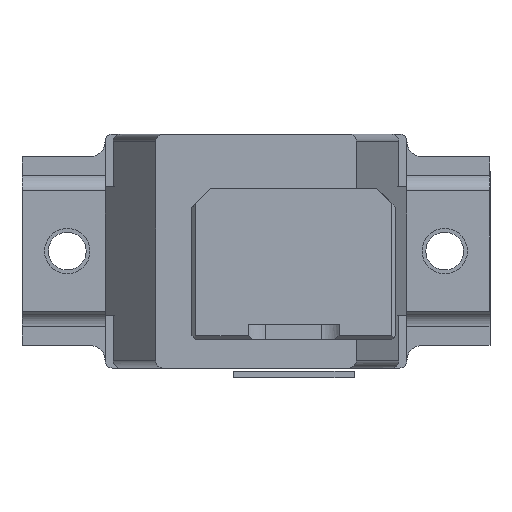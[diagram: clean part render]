
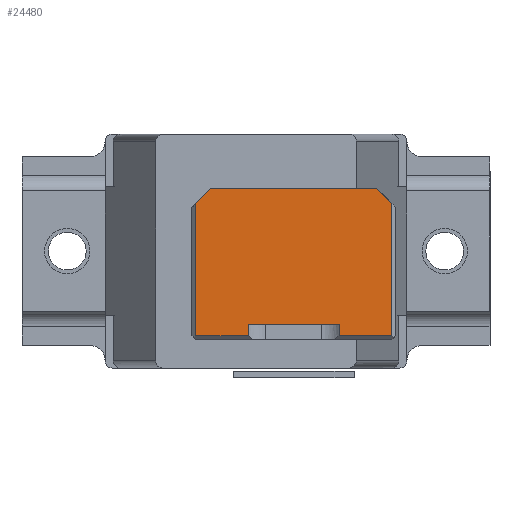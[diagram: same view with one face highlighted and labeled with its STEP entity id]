
A CAD part, left-side view. The second image highlights one B-rep face of the part: STEP entity #24480.
In plain terms, the highlighted planar face has unit normal (-1, 0, 0).
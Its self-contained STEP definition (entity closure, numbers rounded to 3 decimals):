
#61 = EDGE_CURVE ( 'NONE', #2736, #17254, #11929, .T. ) ;
#237 = ORIENTED_EDGE ( 'NONE', *, *, #7673, .T. ) ;
#610 = CARTESIAN_POINT ( 'NONE',  ( 0., -13.25, 9. ) ) ;
#902 = ORIENTED_EDGE ( 'NONE', *, *, #9950, .T. ) ;
#949 = CARTESIAN_POINT ( 'NONE',  ( 0., -12.25, 10. ) ) ;
#1392 = VERTEX_POINT ( 'NONE', #8707 ) ;
#1511 = LINE ( 'NONE', #20238, #7003 ) ;
#1787 = VECTOR ( 'NONE', #18299, 1000. ) ;
#2589 = DIRECTION ( 'NONE',  ( 0., 0., -1. ) ) ;
#2687 = DIRECTION ( 'NONE',  ( 0., 0., -1. ) ) ;
#2736 = VERTEX_POINT ( 'NONE', #7228 ) ;
#2973 = VECTOR ( 'NONE', #19530, 1000. ) ;
#3695 = CARTESIAN_POINT ( 'NONE',  ( 0., -0.25, 0.25 ) ) ;
#4094 = VECTOR ( 'NONE', #9648, 1000. ) ;
#5079 = DIRECTION ( 'NONE',  ( 0., -1., 0. ) ) ;
#5098 = LINE ( 'NONE', #13329, #2973 ) ;
#5399 = VECTOR ( 'NONE', #2687, 1000. ) ;
#5479 = VERTEX_POINT ( 'NONE', #8473 ) ;
#5630 = ORIENTED_EDGE ( 'NONE', *, *, #22681, .T. ) ;
#6900 = LINE ( 'NONE', #21361, #14252 ) ;
#7003 = VECTOR ( 'NONE', #12140, 1000. ) ;
#7122 = DIRECTION ( 'NONE',  ( 0., -1., 0. ) ) ;
#7228 = CARTESIAN_POINT ( 'NONE',  ( 0., -3.75, 1. ) ) ;
#7466 = VERTEX_POINT ( 'NONE', #3695 ) ;
#7673 = EDGE_CURVE ( 'NONE', #25965, #7466, #6900, .T. ) ;
#8341 = DIRECTION ( 'NONE',  ( 0., 0.707, -0.707 ) ) ;
#8473 = CARTESIAN_POINT ( 'NONE',  ( 0., -3.75, 0.25 ) ) ;
#8616 = VECTOR ( 'NONE', #22049, 1000. ) ;
#8684 = EDGE_CURVE ( 'NONE', #24674, #10654, #17389, .T. ) ;
#8707 = CARTESIAN_POINT ( 'NONE',  ( 0., -13.25, 0.25 ) ) ;
#8768 = ORIENTED_EDGE ( 'NONE', *, *, #61, .T. ) ;
#9648 = DIRECTION ( 'NONE',  ( 0., -1., 0. ) ) ;
#9950 = EDGE_CURVE ( 'NONE', #17254, #20554, #13196, .T. ) ;
#10654 = VERTEX_POINT ( 'NONE', #949 ) ;
#11431 = CARTESIAN_POINT ( 'NONE',  ( 0., -0.25, 9. ) ) ;
#11929 = LINE ( 'NONE', #24430, #4094 ) ;
#12140 = DIRECTION ( 'NONE',  ( 0., 0., 1. ) ) ;
#12547 = VERTEX_POINT ( 'NONE', #610 ) ;
#12675 = CARTESIAN_POINT ( 'NONE',  ( 0., -1.25, 10. ) ) ;
#12978 = LINE ( 'NONE', #25468, #1787 ) ;
#13196 = LINE ( 'NONE', #15243, #5399 ) ;
#13329 = CARTESIAN_POINT ( 'NONE',  ( 0., -3.75, 0. ) ) ;
#13792 = CARTESIAN_POINT ( 'NONE',  ( 0., -6.75, 0.25 ) ) ;
#13908 = VECTOR ( 'NONE', #8341, 1000. ) ;
#14252 = VECTOR ( 'NONE', #15144, 1000. ) ;
#15130 = AXIS2_PLACEMENT_3D ( 'NONE', #26577, #21103, #2589 ) ;
#15144 = DIRECTION ( 'NONE',  ( 0., 0., -1. ) ) ;
#15243 = CARTESIAN_POINT ( 'NONE',  ( 0., -9.75, 0. ) ) ;
#15357 = LINE ( 'NONE', #23638, #16352 ) ;
#15543 = CARTESIAN_POINT ( 'NONE',  ( 0., -9.75, 1. ) ) ;
#15838 = LINE ( 'NONE', #13792, #8616 ) ;
#15906 = EDGE_CURVE ( 'NONE', #1392, #12547, #1511, .T. ) ;
#16352 = VECTOR ( 'NONE', #5079, 1000. ) ;
#16532 = EDGE_CURVE ( 'NONE', #12547, #10654, #12978, .T. ) ;
#16951 = VECTOR ( 'NONE', #7122, 1000. ) ;
#17254 = VERTEX_POINT ( 'NONE', #15543 ) ;
#17389 = LINE ( 'NONE', #19529, #16951 ) ;
#18299 = DIRECTION ( 'NONE',  ( 0., 0.707, 0.707 ) ) ;
#18721 = CARTESIAN_POINT ( 'NONE',  ( 0., -9.75, 0.25 ) ) ;
#19529 = CARTESIAN_POINT ( 'NONE',  ( 0., -6.75, 10. ) ) ;
#19530 = DIRECTION ( 'NONE',  ( 0., 0., 1. ) ) ;
#19820 = ORIENTED_EDGE ( 'NONE', *, *, #21683, .T. ) ;
#20205 = ORIENTED_EDGE ( 'NONE', *, *, #22793, .T. ) ;
#20238 = CARTESIAN_POINT ( 'NONE',  ( 0., -13.25, 0. ) ) ;
#20313 = PLANE ( 'NONE',  #15130 ) ;
#20554 = VERTEX_POINT ( 'NONE', #18721 ) ;
#20609 = ORIENTED_EDGE ( 'NONE', *, *, #25254, .T. ) ;
#20648 = ORIENTED_EDGE ( 'NONE', *, *, #16532, .T. ) ;
#21103 = DIRECTION ( 'NONE',  ( -1., 0., 0. ) ) ;
#21361 = CARTESIAN_POINT ( 'NONE',  ( 0., -0.25, 0. ) ) ;
#21683 = EDGE_CURVE ( 'NONE', #20554, #1392, #15838, .T. ) ;
#22049 = DIRECTION ( 'NONE',  ( 0., -1., 0. ) ) ;
#22299 = EDGE_LOOP ( 'NONE', ( #5630, #8768, #902, #19820, #26671, #20648, #26286, #20609, #237, #20205 ) ) ;
#22674 = LINE ( 'NONE', #24472, #13908 ) ;
#22681 = EDGE_CURVE ( 'NONE', #5479, #2736, #5098, .T. ) ;
#22793 = EDGE_CURVE ( 'NONE', #7466, #5479, #15357, .T. ) ;
#23638 = CARTESIAN_POINT ( 'NONE',  ( 0., -6.75, 0.25 ) ) ;
#24430 = CARTESIAN_POINT ( 'NONE',  ( 0., -6.75, 1. ) ) ;
#24472 = CARTESIAN_POINT ( 'NONE',  ( 0., -1.25, 10. ) ) ;
#24480 = ADVANCED_FACE ( 'NONE', ( #26323 ), #20313, .T. ) ;
#24674 = VERTEX_POINT ( 'NONE', #12675 ) ;
#25254 = EDGE_CURVE ( 'NONE', #24674, #25965, #22674, .T. ) ;
#25468 = CARTESIAN_POINT ( 'NONE',  ( 0., -13.25, 9. ) ) ;
#25965 = VERTEX_POINT ( 'NONE', #11431 ) ;
#26286 = ORIENTED_EDGE ( 'NONE', *, *, #8684, .F. ) ;
#26323 = FACE_OUTER_BOUND ( 'NONE', #22299, .T. ) ;
#26577 = CARTESIAN_POINT ( 'NONE',  ( 0., -6.75, 0. ) ) ;
#26671 = ORIENTED_EDGE ( 'NONE', *, *, #15906, .T. ) ;
